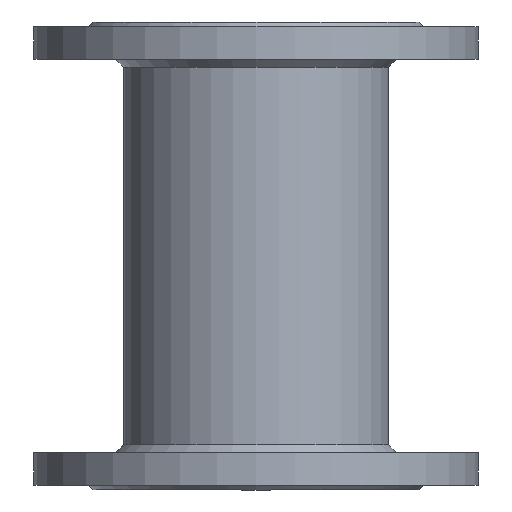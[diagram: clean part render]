
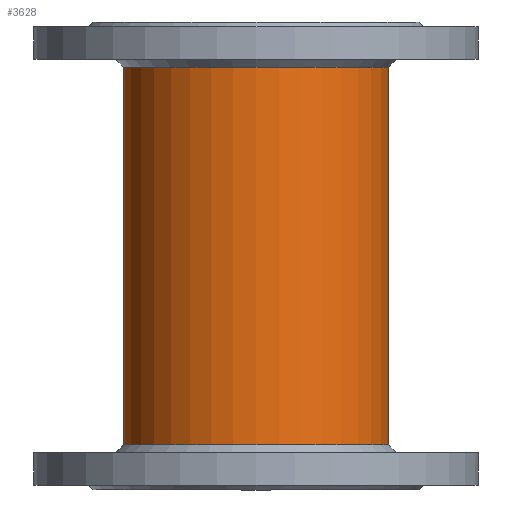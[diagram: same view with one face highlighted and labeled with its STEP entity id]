
A CAD part, front view. The second image highlights one B-rep face of the part: STEP entity #3628.
In plain terms, the highlighted cylindrical face has radius 85 mm (diameter 170 mm), a full revolution.
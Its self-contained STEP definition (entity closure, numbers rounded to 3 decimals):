
#2302=FACE_BOUND('',#5385,.T.);
#2303=FACE_BOUND('',#5386,.T.);
#2304=FACE_BOUND('',#5387,.T.);
#2510=CYLINDRICAL_SURFACE('',#15355,85.);
#2902=CIRCLE('',#15353,85.);
#2903=CIRCLE('',#15354,85.);
#3628=ADVANCED_FACE('',(#2302,#2303,#2304),#2510,.T.);
#5385=EDGE_LOOP('',(#9600,#9601,#9602,#9603));
#5386=EDGE_LOOP('',(#9604));
#5387=EDGE_LOOP('',(#9605));
#6111=B_SPLINE_CURVE_WITH_KNOTS('',3,(#31884,#31885,#31886,#31887,#31888,
#31889,#31890,#31891,#31892,#31893),.UNSPECIFIED.,.F.,.F.,(4,2,2,2,4),(0.,
0.25,0.5,0.75,1.),.UNSPECIFIED.);
#6112=B_SPLINE_CURVE_WITH_KNOTS('',3,(#31894,#31895,#31896,#31897,#31898,
#31899,#31900,#31901,#31902,#31903),.UNSPECIFIED.,.F.,.F.,(4,2,2,2,4),(0.,
0.25,0.5,0.75,1.),.UNSPECIFIED.);
#9600=ORIENTED_EDGE('',*,*,#12641,.F.);
#9601=ORIENTED_EDGE('',*,*,#12645,.T.);
#9602=ORIENTED_EDGE('',*,*,#12643,.F.);
#9603=ORIENTED_EDGE('',*,*,#12646,.T.);
#9604=ORIENTED_EDGE('',*,*,#12647,.T.);
#9605=ORIENTED_EDGE('',*,*,#12648,.T.);
#10860=VERTEX_POINT('',#31864);
#10861=VERTEX_POINT('',#31865);
#10862=VERTEX_POINT('',#31867);
#10863=VERTEX_POINT('',#31878);
#10865=VERTEX_POINT('',#31905);
#10866=VERTEX_POINT('',#31907);
#12641=EDGE_CURVE('',#10861,#10862,#13471,.T.);
#12643=EDGE_CURVE('',#10863,#10860,#13472,.T.);
#12645=EDGE_CURVE('',#10861,#10860,#6111,.T.);
#12646=EDGE_CURVE('',#10863,#10862,#6112,.T.);
#12647=EDGE_CURVE('',#10865,#10865,#2902,.T.);
#12648=EDGE_CURVE('',#10866,#10866,#2903,.T.);
#13471=LINE('',#31866,#14420);
#13472=LINE('',#31879,#14421);
#14420=VECTOR('',#18197,1.);
#14421=VECTOR('',#18198,1.);
#15353=AXIS2_PLACEMENT_3D('',#31904,#18205,#18206);
#15354=AXIS2_PLACEMENT_3D('',#31906,#18207,#18208);
#15355=AXIS2_PLACEMENT_3D('',#31908,#18209,#18210);
#18197=DIRECTION('',(0.,0.,1.));
#18198=DIRECTION('',(0.,0.,-1.));
#18205=DIRECTION('',(0.,0.,1.));
#18206=DIRECTION('',(0.,1.,0.));
#18207=DIRECTION('',(0.,0.,-1.));
#18208=DIRECTION('',(0.,-1.,0.));
#18209=DIRECTION('',(0.,0.,1.));
#18210=DIRECTION('',(0.,-1.,0.));
#31864=CARTESIAN_POINT('',(18.315,15.5,-13.397));
#31865=CARTESIAN_POINT('',(-18.346,15.5,-13.397));
#31866=CARTESIAN_POINT('',(-18.346,15.5,914.158));
#31867=CARTESIAN_POINT('',(-18.346,15.5,9.396));
#31878=CARTESIAN_POINT('',(18.315,15.5,9.398));
#31879=CARTESIAN_POINT('',(18.315,15.5,914.158));
#31884=CARTESIAN_POINT('',(-18.346,15.5,-13.397));
#31885=CARTESIAN_POINT('',(-16.033,16.011,-15.931));
#31886=CARTESIAN_POINT('',(-13.142,16.54,-17.867));
#31887=CARTESIAN_POINT('',(-6.867,17.282,-20.464));
#31888=CARTESIAN_POINT('',(-3.42,17.501,-21.143));
#31889=CARTESIAN_POINT('',(3.423,17.499,-21.136));
#31890=CARTESIAN_POINT('',(6.851,17.282,-20.462));
#31891=CARTESIAN_POINT('',(13.175,16.531,-17.835));
#31892=CARTESIAN_POINT('',(16.,16.011,-15.933));
#31893=CARTESIAN_POINT('',(18.315,15.5,-13.397));
#31894=CARTESIAN_POINT('',(18.315,15.5,9.398));
#31895=CARTESIAN_POINT('',(16.,16.011,11.929));
#31896=CARTESIAN_POINT('',(13.111,16.54,13.864));
#31897=CARTESIAN_POINT('',(6.837,17.282,16.468));
#31898=CARTESIAN_POINT('',(3.389,17.501,17.14));
#31899=CARTESIAN_POINT('',(-3.453,17.499,17.139));
#31900=CARTESIAN_POINT('',(-6.882,17.282,16.466));
#31901=CARTESIAN_POINT('',(-13.202,16.531,13.834));
#31902=CARTESIAN_POINT('',(-16.031,16.011,11.934));
#31903=CARTESIAN_POINT('',(-18.346,15.5,9.396));
#31904=CARTESIAN_POINT('',(-0.016,-67.5,-93.242));
#31905=CARTESIAN_POINT('',(-0.016,17.5,-93.242));
#31906=CARTESIAN_POINT('',(-0.016,-67.5,148.758));
#31907=CARTESIAN_POINT('',(-0.016,-152.5,148.758));
#31908=CARTESIAN_POINT('',(-0.016,-67.5,914.158));
